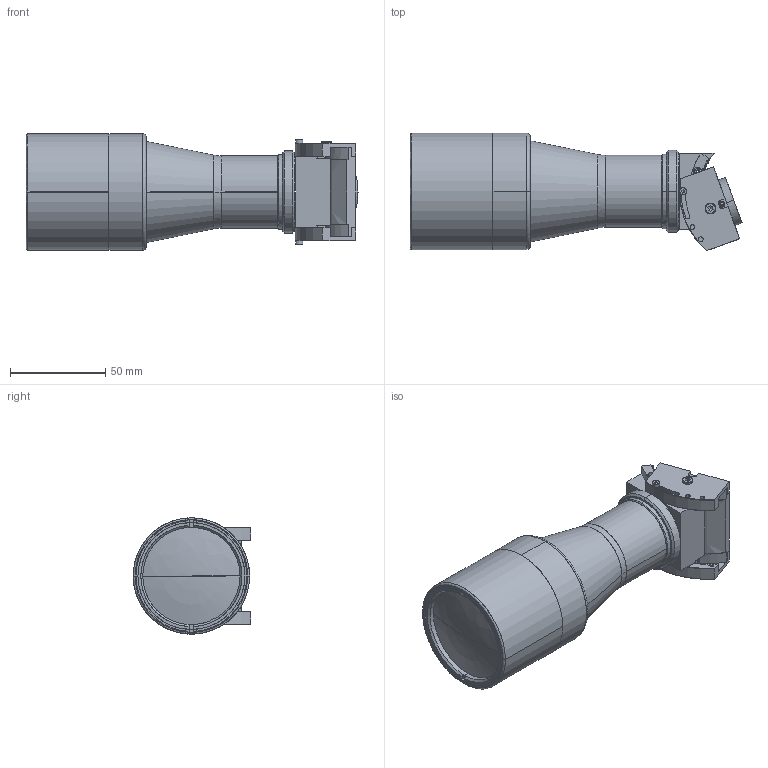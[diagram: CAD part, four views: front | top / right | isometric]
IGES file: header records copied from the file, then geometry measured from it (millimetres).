
Start section: SolidWorks IGES file using analytic representation for surfaces
Global section: file name: \\172.16.20.198\dati\R&D\01 archivio\DPXXXXX-X\DP50162-A_TCSM036.igs; native system: SolidWorks 2021; preprocessor: SolidWorks 2021; author: lrizzotto; date: 211203.103137; units: millimetre
Bounding box: 174.02 x 61.61 x 61 mm (x, y, z)
Surface area: 50954.8 mm2 (no closed solid volume)
Topology: 0 solids, 0 shells, 378 faces, 5343 edges, 5328 vertices
Faces by surface type: bspline 210, revolution 168
